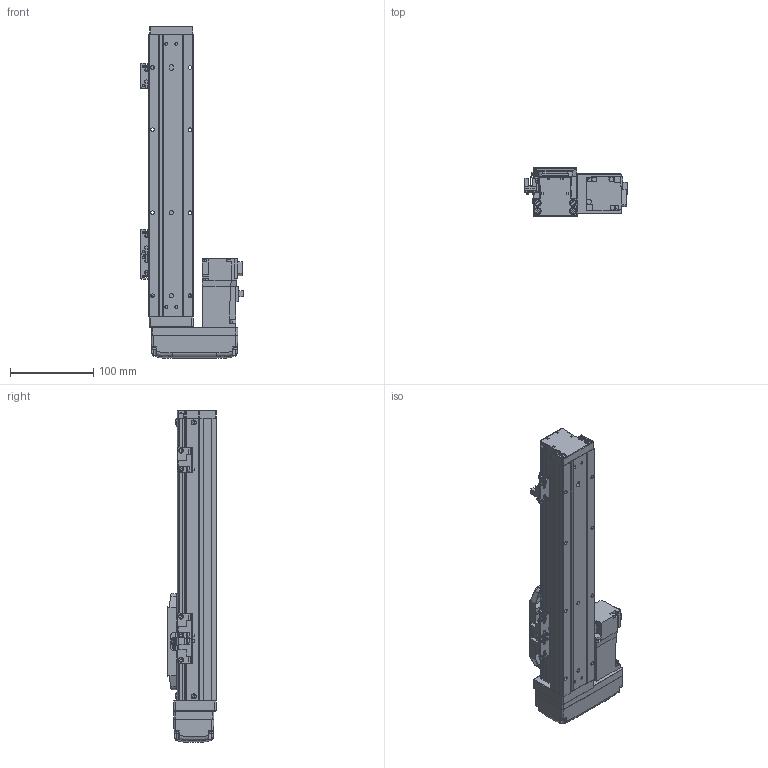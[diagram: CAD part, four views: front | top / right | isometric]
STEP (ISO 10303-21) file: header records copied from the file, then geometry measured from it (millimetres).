
FILE_DESCRIPTION (( 'STEP AP203' ), '1' );
FILE_NAME ('GTH5-200-BR-M10-C4.step', '2022-09-23T00:50:18', ( '微软用户' ), ( '微软中国' ), 'SwSTEP 2.0', 'SolidWorks 2020', '' );
FILE_SCHEMA (( 'CONFIG_CONTROL_DESIGN' ));
Length unit declared in the file: millimetre
Products named in the file (19): GBT 70.3-M3℅6; GBT 70.1-M3℅6; GTH50-027-1_BTHA50-027-2; BTH-M3X5X6; GBT96.1-2002 3×0.8; GTH50-026; GTH50-001_200; GTH50-024; GTH5-200-BR-M10-C4; GBT 70.1-M4×16; GBT 70.1-M2.5×6; GTH50-003; GTH50-028; GTH50-006; GTH50-013; GTH50-022-1; GTH50-004; GTH50-023; HG-KR13
Assembly tree (57 placements, depth 2):
  GTH5-200-BR-M10-C4
    GTH50-006
    GTH50-004
    GBT 70.3-M3℅6  x4
    BTH-M3X5X6  x8
    GTH50-001_200
    GBT 70.1-M4×16  x8
    GTH50-003
    GTH50-013
    GTH50-023  x3
    GBT 70.1-M3℅6  x12
    GBT96.1-2002 3×0.8  x6
    GTH50-024  x3
    GBT 70.1-M2.5×6  x2
    GTH50-028  x2
    GTH50-022-1
    HG-KR13
    GTH50-027-1_BTHA50-027-2
    GTH50-026
Bounding box: 123.6 x 60 x 400 mm (x, y, z)
Volume: 999210.6 mm3; surface area: 207412.6 mm2
Topology: 59 solids, 59 shells, 2144 faces, 4968 edges, 3044 vertices
Faces by surface type: plane 1142, cylinder 573, cone 219, torus 162, bspline 40, sphere 8
Entity records: 39568 total; most frequent: CARTESIAN_POINT 7851, DIRECTION 6073, ORIENTED_EDGE 5850, EDGE_CURVE 2925, AXIS2_PLACEMENT_3D 2104, LINE 1865, VECTOR 1865, VERTEX_POINT 1846
